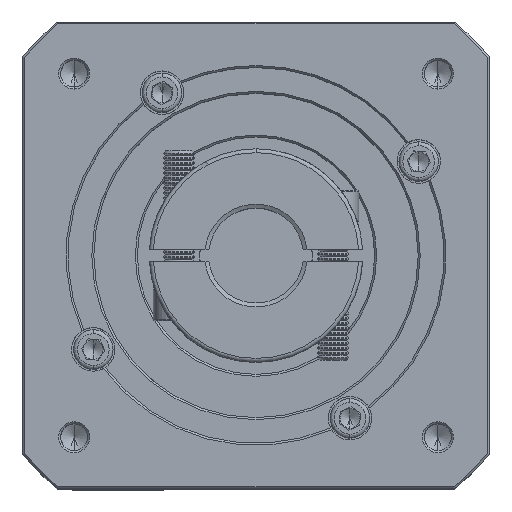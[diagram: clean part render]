
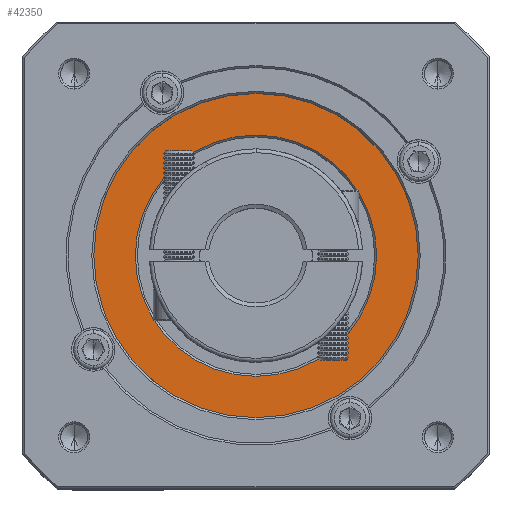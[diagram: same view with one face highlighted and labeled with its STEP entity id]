
A CAD part, top view. The second image highlights one B-rep face of the part: STEP entity #42350.
In plain terms, the highlighted planar face has unit normal (0, 0, 1).
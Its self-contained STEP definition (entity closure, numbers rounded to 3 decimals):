
#98 = VERTEX_POINT ( 'NONE', #29941 ) ;
#2726 = DIRECTION ( 'NONE',  ( 0., 0., 1. ) ) ;
#7634 = DIRECTION ( 'NONE',  ( 1., 0., 0. ) ) ;
#8485 = EDGE_LOOP ( 'NONE', ( #33062, #95718 ) ) ;
#11233 = EDGE_LOOP ( 'NONE', ( #94008, #100365 ) ) ;
#13788 = FACE_OUTER_BOUND ( 'NONE', #8485, .T. ) ;
#17917 = DIRECTION ( 'NONE',  ( 0., 0., -1. ) ) ;
#18007 = EDGE_CURVE ( 'NONE', #98, #66844, #101870, .T. ) ;
#21270 = CIRCLE ( 'NONE', #72367, 30.5 ) ;
#23842 = VERTEX_POINT ( 'NONE', #107596 ) ;
#24847 = DIRECTION ( 'NONE',  ( 0., 0., 1. ) ) ;
#28743 = CARTESIAN_POINT ( 'NONE',  ( 48.62, 55.652, -27.208 ) ) ;
#29941 = CARTESIAN_POINT ( 'NONE',  ( 48.62, 14.652, -27.208 ) ) ;
#33062 = ORIENTED_EDGE ( 'NONE', *, *, #80647, .T. ) ;
#42350 = ADVANCED_FACE ( 'NONE', ( #13788, #92511 ), #64231, .T. ) ;
#43838 = AXIS2_PLACEMENT_3D ( 'NONE', #118738, #24847, #67070 ) ;
#44072 = CARTESIAN_POINT ( 'NONE',  ( 48.62, 55.652, -27.208 ) ) ;
#53902 = DIRECTION ( 'NONE',  ( 0., 1., 0. ) ) ;
#58667 = AXIS2_PLACEMENT_3D ( 'NONE', #44072, #2726, #53902 ) ;
#58901 = CARTESIAN_POINT ( 'NONE',  ( 48.62, 96.652, -27.208 ) ) ;
#59395 = CARTESIAN_POINT ( 'NONE',  ( 48.62, 55.652, -27.208 ) ) ;
#63358 = EDGE_CURVE ( 'NONE', #122936, #23842, #21270, .T. ) ;
#64231 = PLANE ( 'NONE',  #58667 ) ;
#66770 = CARTESIAN_POINT ( 'NONE',  ( 18.12, 55.652, -27.208 ) ) ;
#66844 = VERTEX_POINT ( 'NONE', #58901 ) ;
#67070 = DIRECTION ( 'NONE',  ( 0., 1., 0. ) ) ;
#69832 = EDGE_CURVE ( 'NONE', #23842, #122936, #97060, .T. ) ;
#72367 = AXIS2_PLACEMENT_3D ( 'NONE', #28743, #17917, #7634 ) ;
#73200 = DIRECTION ( 'NONE',  ( 0., 0., 1. ) ) ;
#74963 = DIRECTION ( 'NONE',  ( 0., 1., 0. ) ) ;
#75574 = CIRCLE ( 'NONE', #43838, 41. ) ;
#80647 = EDGE_CURVE ( 'NONE', #66844, #98, #75574, .T. ) ;
#88601 = AXIS2_PLACEMENT_3D ( 'NONE', #59395, #120021, #131257 ) ;
#92511 = FACE_BOUND ( 'NONE', #11233, .T. ) ;
#94008 = ORIENTED_EDGE ( 'NONE', *, *, #69832, .T. ) ;
#94196 = CARTESIAN_POINT ( 'NONE',  ( 48.62, 55.652, -27.208 ) ) ;
#95718 = ORIENTED_EDGE ( 'NONE', *, *, #18007, .T. ) ;
#97060 = CIRCLE ( 'NONE', #88601, 30.5 ) ;
#100365 = ORIENTED_EDGE ( 'NONE', *, *, #63358, .T. ) ;
#101870 = CIRCLE ( 'NONE', #122130, 41. ) ;
#107596 = CARTESIAN_POINT ( 'NONE',  ( 79.12, 55.652, -27.208 ) ) ;
#118738 = CARTESIAN_POINT ( 'NONE',  ( 48.62, 55.652, -27.208 ) ) ;
#120021 = DIRECTION ( 'NONE',  ( 0., 0., -1. ) ) ;
#122130 = AXIS2_PLACEMENT_3D ( 'NONE', #94196, #73200, #74963 ) ;
#122936 = VERTEX_POINT ( 'NONE', #66770 ) ;
#131257 = DIRECTION ( 'NONE',  ( 1., 0., 0. ) ) ;
